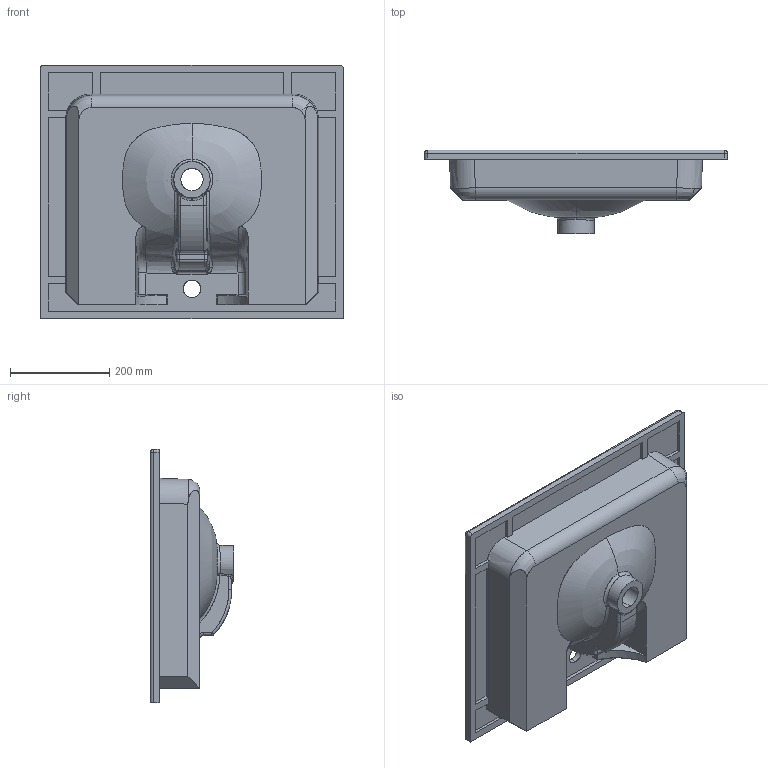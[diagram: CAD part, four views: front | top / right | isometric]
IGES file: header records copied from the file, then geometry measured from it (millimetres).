
Start section: SolidWorks IGES file using NURBS representation for surfaces
Global section: file name: C:\Users\User\Desktop\Soft\lavabi definitivi soft 51 m\soft 610 x 515\definitivo soft 610 x 515.IGS; native system: SolidWorks 2016; preprocessor: SolidWorks 2016; author: User; date: 200629.175336; units: millimetre
Bounding box: 610 x 168 x 510 mm (x, y, z)
Surface area: 898229.3 mm2 (no closed solid volume)
Topology: 0 solids, 0 shells, 140 faces, 2008 edges, 2000 vertices
Faces by surface type: bspline 140
